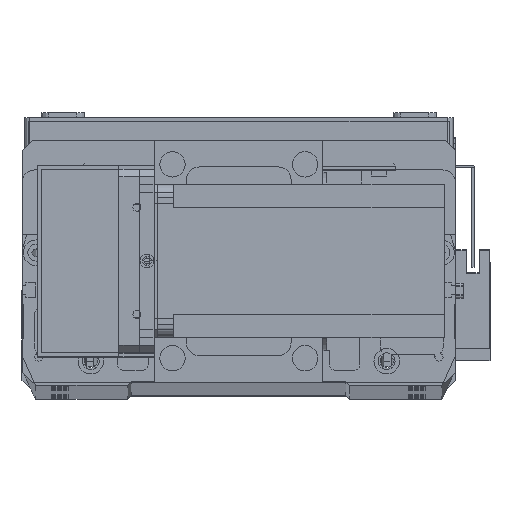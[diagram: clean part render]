
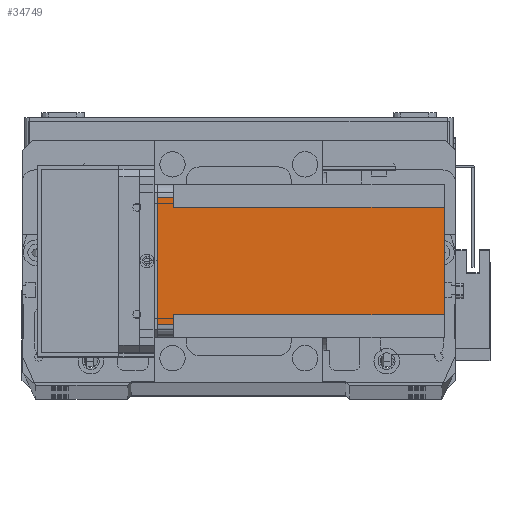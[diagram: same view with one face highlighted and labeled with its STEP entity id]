
A CAD part, top view. The second image highlights one B-rep face of the part: STEP entity #34749.
In plain terms, the highlighted planar face has unit normal (0, 0, 1) as drawn and (-1, 0, 0) by its records, which use the part's own axes.
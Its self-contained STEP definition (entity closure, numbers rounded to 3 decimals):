
#926 = FACE_OUTER_BOUND ( 'NONE', #4006, .T. ) ;
#1568 = VERTEX_POINT ( 'NONE', #27380 ) ;
#2011 = DIRECTION ( 'NONE',  ( 0., 0., -1. ) ) ;
#2314 = CARTESIAN_POINT ( 'NONE',  ( 0., 9., -112.5 ) ) ;
#2532 = CARTESIAN_POINT ( 'NONE',  ( 0., 5., -112.5 ) ) ;
#2578 = LINE ( 'NONE', #17446, #30259 ) ;
#3023 = CARTESIAN_POINT ( 'NONE',  ( 0., 55., -112.5 ) ) ;
#3773 = LINE ( 'NONE', #5269, #10058 ) ;
#4006 = EDGE_LOOP ( 'NONE', ( #24169, #23958, #33441, #17325, #33951, #24489, #6858, #31657 ) ) ;
#5059 = EDGE_CURVE ( 'NONE', #19618, #6640, #7673, .T. ) ;
#5265 = LINE ( 'NONE', #22311, #13263 ) ;
#5269 = CARTESIAN_POINT ( 'NONE',  ( 0., 0., 0. ) ) ;
#6216 = CARTESIAN_POINT ( 'NONE',  ( 0., 55., -6.5 ) ) ;
#6254 = DIRECTION ( 'NONE',  ( 0., 1., 0. ) ) ;
#6270 = EDGE_CURVE ( 'NONE', #16216, #34244, #25321, .T. ) ;
#6640 = VERTEX_POINT ( 'NONE', #25404 ) ;
#6768 = DIRECTION ( 'NONE',  ( 0., 1., 0. ) ) ;
#6858 = ORIENTED_EDGE ( 'NONE', *, *, #11144, .T. ) ;
#7673 = LINE ( 'NONE', #10919, #28264 ) ;
#8261 = CARTESIAN_POINT ( 'NONE',  ( 0., 0., -112.5 ) ) ;
#8349 = AXIS2_PLACEMENT_3D ( 'NONE', #12020, #14742, #33458 ) ;
#9312 = PLANE ( 'NONE',  #8349 ) ;
#10058 = VECTOR ( 'NONE', #13497, 1000. ) ;
#10582 = EDGE_CURVE ( 'NONE', #12503, #12487, #22961, .T. ) ;
#10919 = CARTESIAN_POINT ( 'NONE',  ( 0., 51., -112.5 ) ) ;
#11022 = DIRECTION ( 'NONE',  ( 0., 0., -1. ) ) ;
#11144 = EDGE_CURVE ( 'NONE', #19618, #29732, #14124, .T. ) ;
#11854 = CARTESIAN_POINT ( 'NONE',  ( 0., 55., 0. ) ) ;
#12020 = CARTESIAN_POINT ( 'NONE',  ( 0., 0., -112.5 ) ) ;
#12487 = VERTEX_POINT ( 'NONE', #6216 ) ;
#12503 = VERTEX_POINT ( 'NONE', #11854 ) ;
#13263 = VECTOR ( 'NONE', #6254, 1000. ) ;
#13497 = DIRECTION ( 'NONE',  ( 0., -1., 0. ) ) ;
#13620 = DIRECTION ( 'NONE',  ( 0., 0., 1. ) ) ;
#14124 = LINE ( 'NONE', #8261, #33800 ) ;
#14552 = EDGE_CURVE ( 'NONE', #16216, #1568, #5265, .T. ) ;
#14742 = DIRECTION ( 'NONE',  ( -1., 0., 0. ) ) ;
#15026 = VECTOR ( 'NONE', #11022, 1000. ) ;
#15423 = CARTESIAN_POINT ( 'NONE',  ( 0., 9., -112.5 ) ) ;
#16216 = VERTEX_POINT ( 'NONE', #16324 ) ;
#16324 = CARTESIAN_POINT ( 'NONE',  ( 0., 5., -6.5 ) ) ;
#17295 = EDGE_CURVE ( 'NONE', #1568, #29732, #31553, .T. ) ;
#17325 = ORIENTED_EDGE ( 'NONE', *, *, #10582, .T. ) ;
#17446 = CARTESIAN_POINT ( 'NONE',  ( 0., 60., -6.5 ) ) ;
#18821 = EDGE_CURVE ( 'NONE', #12503, #34244, #3773, .T. ) ;
#19618 = VERTEX_POINT ( 'NONE', #19887 ) ;
#19887 = CARTESIAN_POINT ( 'NONE',  ( 0., 51., -112.5 ) ) ;
#21331 = DIRECTION ( 'NONE',  ( 0., 0., 1. ) ) ;
#22311 = CARTESIAN_POINT ( 'NONE',  ( 0., 0., -6.5 ) ) ;
#22961 = LINE ( 'NONE', #3023, #15026 ) ;
#23958 = ORIENTED_EDGE ( 'NONE', *, *, #6270, .T. ) ;
#24169 = ORIENTED_EDGE ( 'NONE', *, *, #14552, .F. ) ;
#24412 = VECTOR ( 'NONE', #2011, 1000. ) ;
#24489 = ORIENTED_EDGE ( 'NONE', *, *, #5059, .F. ) ;
#25321 = LINE ( 'NONE', #2532, #26168 ) ;
#25404 = CARTESIAN_POINT ( 'NONE',  ( 0., 51., -6.5 ) ) ;
#26168 = VECTOR ( 'NONE', #21331, 1000. ) ;
#27053 = DIRECTION ( 'NONE',  ( 0., -1., 0. ) ) ;
#27380 = CARTESIAN_POINT ( 'NONE',  ( 0., 9., -6.5 ) ) ;
#28264 = VECTOR ( 'NONE', #13620, 1000. ) ;
#29732 = VERTEX_POINT ( 'NONE', #2314 ) ;
#30144 = EDGE_CURVE ( 'NONE', #6640, #12487, #2578, .T. ) ;
#30259 = VECTOR ( 'NONE', #6768, 1000. ) ;
#31055 = CARTESIAN_POINT ( 'NONE',  ( 0., 5., 0. ) ) ;
#31553 = LINE ( 'NONE', #15423, #24412 ) ;
#31657 = ORIENTED_EDGE ( 'NONE', *, *, #17295, .F. ) ;
#33441 = ORIENTED_EDGE ( 'NONE', *, *, #18821, .F. ) ;
#33458 = DIRECTION ( 'NONE',  ( 0., -1., 0. ) ) ;
#33800 = VECTOR ( 'NONE', #27053, 1000. ) ;
#33951 = ORIENTED_EDGE ( 'NONE', *, *, #30144, .F. ) ;
#34244 = VERTEX_POINT ( 'NONE', #31055 ) ;
#34749 = ADVANCED_FACE ( 'NONE', ( #926 ), #9312, .T. ) ;
